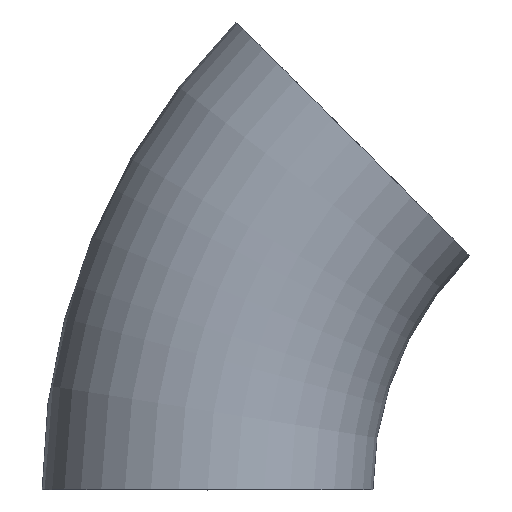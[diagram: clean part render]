
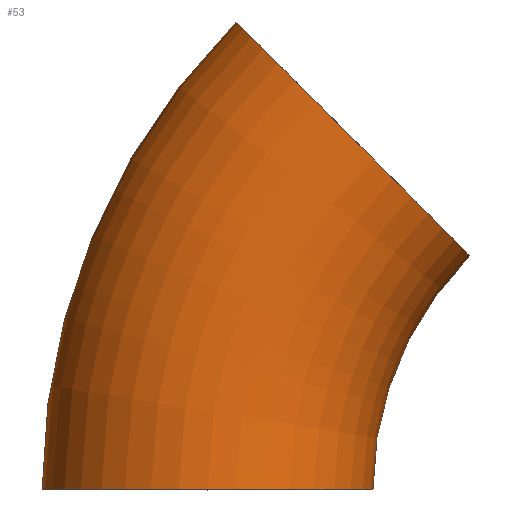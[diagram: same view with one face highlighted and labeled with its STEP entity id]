
A CAD part, top view. The second image highlights one B-rep face of the part: STEP entity #53.
In plain terms, the highlighted toroidal (fillet/blend) face has major radius 28.575 mm and minor radius 9.525 mm.
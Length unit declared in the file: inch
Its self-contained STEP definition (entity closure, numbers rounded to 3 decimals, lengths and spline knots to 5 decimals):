
#7 = CARTESIAN_POINT ( 'NONE',  ( -0.53033, 0.53033, 0. ) ) ;
#33 = ORIENTED_EDGE ( 'NONE', *, *, #251, .F. ) ;
#35 = CARTESIAN_POINT ( 'NONE',  ( -1.5, 0., 0. ) ) ;
#53 = ADVANCED_FACE ( 'NONE', ( #196 ), #199, .T. ) ;
#57 = CARTESIAN_POINT ( 'NONE',  ( 0., 0., 0. ) ) ;
#58 = DIRECTION ( 'NONE',  ( 1., 0., 0. ) ) ;
#74 = DIRECTION ( 'NONE',  ( 0., -1., 0. ) ) ;
#79 = VERTEX_POINT ( 'NONE', #7 ) ;
#92 = CIRCLE ( 'NONE', #141, 0.375 ) ;
#107 = CIRCLE ( 'NONE', #134, 0.75 ) ;
#109 = DIRECTION ( 'NONE',  ( 0., 0., 1. ) ) ;
#110 = CARTESIAN_POINT ( 'NONE',  ( 0., 0., 0. ) ) ;
#114 = CIRCLE ( 'NONE', #147, 1.5 ) ;
#124 = CIRCLE ( 'NONE', #151, 0.375 ) ;
#128 = DIRECTION ( 'NONE',  ( 0., 0., 1. ) ) ;
#130 = DIRECTION ( 'NONE',  ( 0., 1., 0. ) ) ;
#134 = AXIS2_PLACEMENT_3D ( 'NONE', #110, #109, #74 ) ;
#141 = AXIS2_PLACEMENT_3D ( 'NONE', #210, #130, #128 ) ;
#142 = DIRECTION ( 'NONE',  ( 0., 0., 1. ) ) ;
#147 = AXIS2_PLACEMENT_3D ( 'NONE', #207, #191, #190 ) ;
#151 = AXIS2_PLACEMENT_3D ( 'NONE', #249, #245, #244 ) ;
#162 = EDGE_LOOP ( 'NONE', ( #255, #234, #183, #33 ) ) ;
#181 = AXIS2_PLACEMENT_3D ( 'NONE', #57, #142, #58 ) ;
#183 = ORIENTED_EDGE ( 'NONE', *, *, #248, .T. ) ;
#188 = CARTESIAN_POINT ( 'NONE',  ( -0.75, 0., 0. ) ) ;
#190 = DIRECTION ( 'NONE',  ( 0., -1., 0. ) ) ;
#191 = DIRECTION ( 'NONE',  ( 0., 0., 1. ) ) ;
#196 = FACE_OUTER_BOUND ( 'NONE', #162, .T. ) ;
#199 = TOROIDAL_SURFACE ( 'NONE', #181, 1.125, 0.375 ) ;
#202 = VERTEX_POINT ( 'NONE', #35 ) ;
#207 = CARTESIAN_POINT ( 'NONE',  ( 0., 0., 0. ) ) ;
#210 = CARTESIAN_POINT ( 'NONE',  ( -1.125, 0., 0. ) ) ;
#217 = CARTESIAN_POINT ( 'NONE',  ( -1.06066, 1.06066, 0. ) ) ;
#220 = EDGE_CURVE ( 'NONE', #239, #79, #124, .T. ) ;
#234 = ORIENTED_EDGE ( 'NONE', *, *, #235, .T. ) ;
#235 = EDGE_CURVE ( 'NONE', #239, #202, #114, .T. ) ;
#239 = VERTEX_POINT ( 'NONE', #217 ) ;
#244 = DIRECTION ( 'NONE',  ( 0., 0., 1. ) ) ;
#245 = DIRECTION ( 'NONE',  ( 0.707, 0.707, 0. ) ) ;
#248 = EDGE_CURVE ( 'NONE', #202, #253, #92, .T. ) ;
#249 = CARTESIAN_POINT ( 'NONE',  ( -0.7955, 0.7955, 0. ) ) ;
#251 = EDGE_CURVE ( 'NONE', #79, #253, #107, .T. ) ;
#253 = VERTEX_POINT ( 'NONE', #188 ) ;
#255 = ORIENTED_EDGE ( 'NONE', *, *, #220, .F. ) ;
